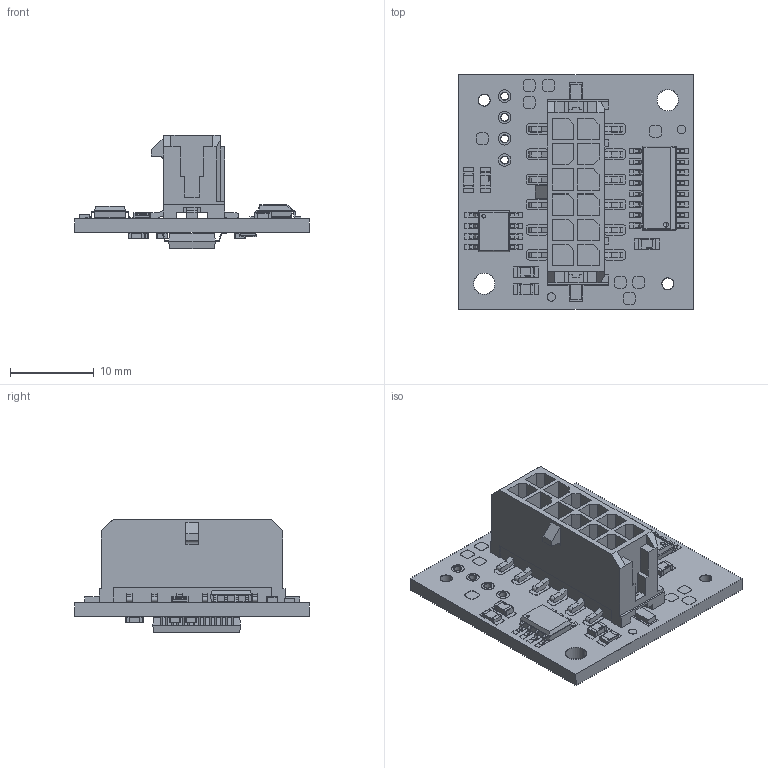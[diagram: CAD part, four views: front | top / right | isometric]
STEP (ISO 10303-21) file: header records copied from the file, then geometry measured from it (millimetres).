
FILE_DESCRIPTION (( 'STEP AP214' ), '1' );
FILE_NAME ('RMB28SSI_INC_AM4096_MODM369.STEP', '2019-12-04T15:03:50', ( '' ), ( '' ), 'SwSTEP 2.0', 'SolidWorks 2016', '' );
FILE_SCHEMA (( 'AUTOMOTIVE_DESIGN' ));
Length unit declared in the file: millimetre
Products named in the file (1): RMB28SSI_INC_AM4096_MODM369
Bounding box: 28 x 28 x 13.57 mm (x, y, z)
Volume: 2336 mm3; surface area: 4801 mm2
Topology: 193 solids, 193 shells, 3526 faces, 8857 edges, 5735 vertices
Faces by surface type: plane 2396, cylinder 578, bspline 540, sphere 12
Entity records: 183335 total; most frequent: CARTESIAN_POINT 61767, ORIENTED_EDGE 17548, DIRECTION 14473, EDGE_CURVE 8774, VECTOR 6665, LINE 6665, VERTEX_POINT 5734, AXIS2_PLACEMENT_3D 3904
